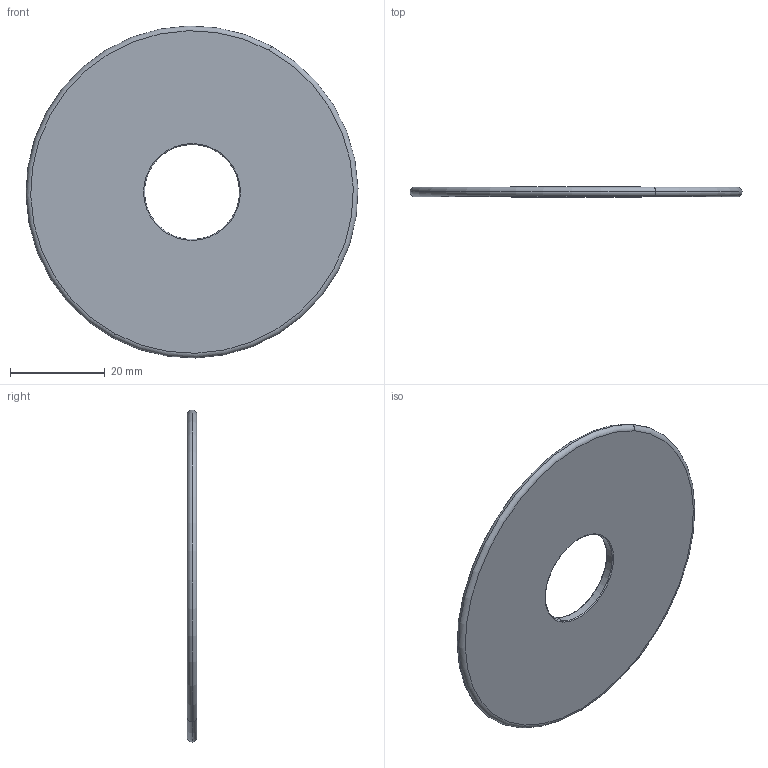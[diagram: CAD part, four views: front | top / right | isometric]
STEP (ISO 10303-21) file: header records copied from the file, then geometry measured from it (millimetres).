
FILE_DESCRIPTION(('CATIA V5 STEP Exchange'),'2;1');
FILE_NAME('X:\CODICI MOVEX\3D per clienti\Tom\16-11-2012\P20706_01.stp','2012-11-16T11:26:45+00:00',('none'),('none'),'CATIA Version 5 Release 21 SP 1 (IN-10)','CATIA V5 STEP AP203','none');
FILE_SCHEMA(('CONFIG_CONTROL_DESIGN'));
Length unit declared in the file: millimetre
Products named in the file (1): Part1
Bounding box: 69.98 x 2 x 69.98 mm (x, y, z)
Volume: 6973.7 mm3; surface area: 7433.7 mm2
Topology: 1 solids, 1 shells, 12 faces, 24 edges, 14 vertices
Faces by surface type: torus 8, plane 2, cylinder 2
Entity records: 341 total; most frequent: CARTESIAN_POINT 50, ORIENTED_EDGE 48, DIRECTION 46, AXIS2_PLACEMENT_3D 34, EDGE_CURVE 24, CIRCLE 22, EDGE_LOOP 14, VERTEX_POINT 14
